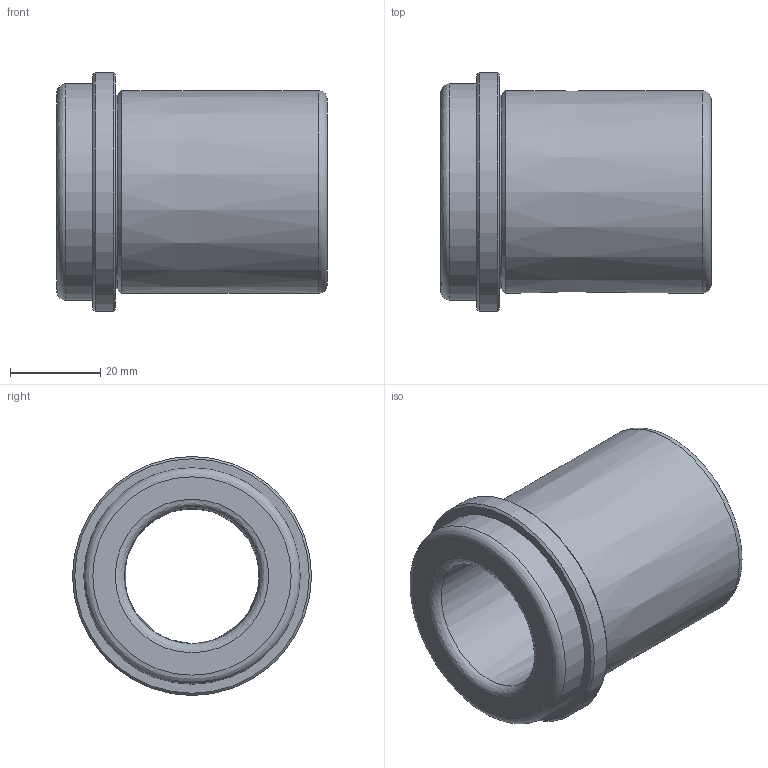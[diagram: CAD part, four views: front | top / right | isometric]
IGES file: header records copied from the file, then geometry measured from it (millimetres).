
Start section: Data from Parasolid IGES Translator 20.0.26, Copyright(c) 2006 Siemens P LM Software. All Rights Reserved.
Global section: file name: WZ - 4032 30 x 60.igs; native system: By Siemens PLM Incorporated; preprocessor: XPlus GENERIC/IGES 20.0.26; author: Noname; organization: Noname; date: 20201203.204208; units: millimetre
Bounding box: 60 x 53 x 53 mm (x, y, z)
Surface area: 17290.9 mm2 (no closed solid volume)
Topology: 0 solids, 0 shells, 19 faces, 70 edges, 48 vertices
Faces by surface type: revolution 14, extrusion 5
